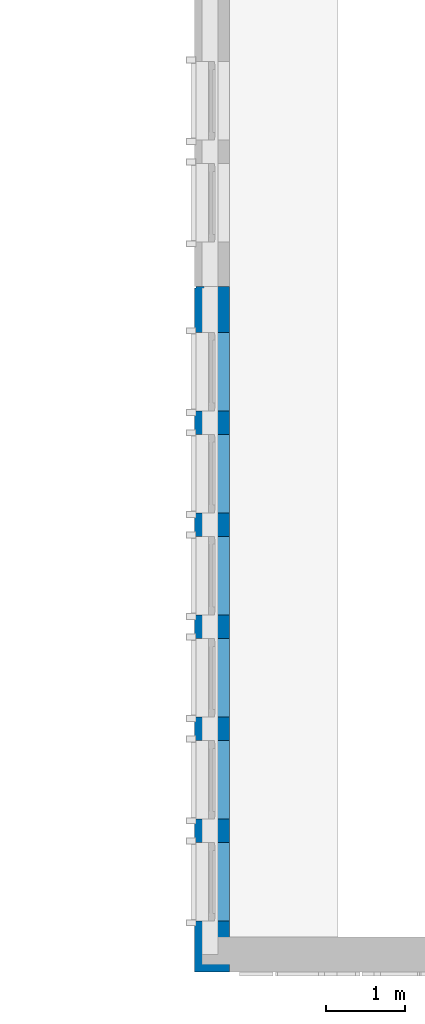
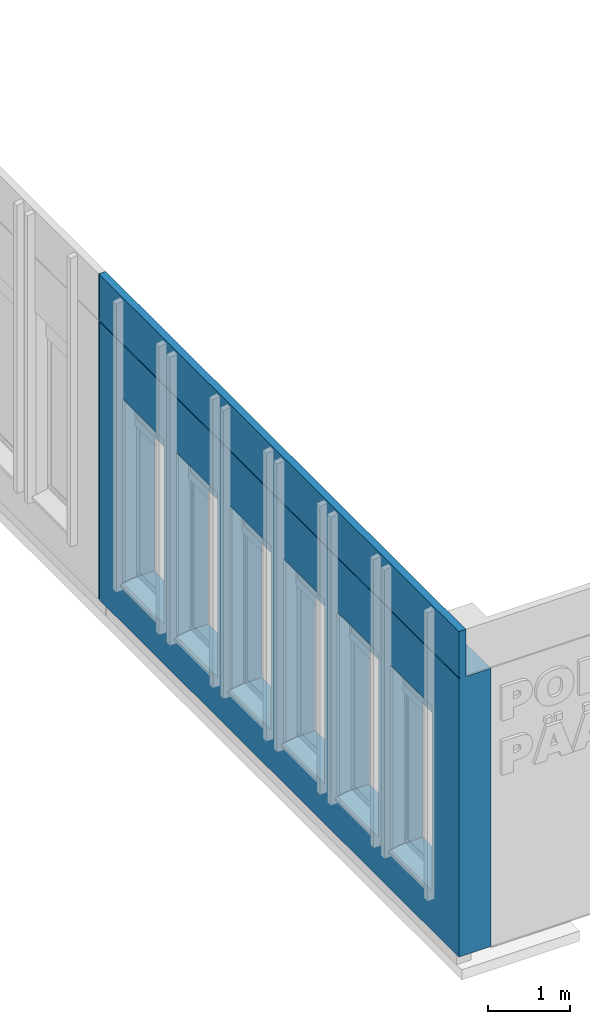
# One storey, part 2 of 33: 1 wall, 10 openings.
"""IFC2X3 building model written with IfcOpenShell, lengths in millimetres."""

from ifc_helpers import new_model, entity, si_unit, converted_unit, derived_unit, direction, frame, frame_2d, origin, place, context, subcontext, project, spatial, polyline, rectangle, extrude, clip, bounded_halfspace, faceted_brep, material, layer, layer_set, layer_usage, type_object, element, save


model = new_model("IFC2X3")

# Units and contexts
model_context = context("Model", 3, precision=0.01, world=origin(), true_north=direction((6.12303176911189e-17, 1.0)))
body_context = subcontext(model_context, "Body", "Model", "MODEL_VIEW")
ifc_project = project(units=[si_unit("LENGTHUNIT", "METRE", prefix="MILLI"), si_unit("AREAUNIT", "SQUARE_METRE"), si_unit("VOLUMEUNIT", "CUBIC_METRE"), converted_unit("PLANEANGLEUNIT", "DEGREE", entity("IfcRatioMeasure", 0.0174532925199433), si_unit("PLANEANGLEUNIT", "RADIAN"), dimensions=[0, 0, 0, 0, 0, 0, 0]), si_unit("MASSUNIT", "GRAM", prefix="KILO"), derived_unit("MASSDENSITYUNIT", [(si_unit("MASSUNIT", "GRAM", prefix="KILO"), 1), (si_unit("LENGTHUNIT", "METRE"), -3)]), si_unit("TIMEUNIT", "SECOND"), si_unit("FREQUENCYUNIT", "HERTZ"), si_unit("THERMODYNAMICTEMPERATUREUNIT", "DEGREE_CELSIUS"), derived_unit("THERMALTRANSMITTANCEUNIT", [(si_unit("MASSUNIT", "GRAM", prefix="KILO"), 1), (si_unit("THERMODYNAMICTEMPERATUREUNIT", "KELVIN"), -1), (si_unit("TIMEUNIT", "SECOND"), -3)]), derived_unit("VOLUMETRICFLOWRATEUNIT", [(si_unit("LENGTHUNIT", "METRE"), 3), (si_unit("TIMEUNIT", "SECOND"), -1)]), si_unit("ELECTRICCURRENTUNIT", "AMPERE"), si_unit("ELECTRICVOLTAGEUNIT", "VOLT"), si_unit("POWERUNIT", "WATT"), si_unit("FORCEUNIT", "NEWTON", prefix="KILO"), si_unit("ILLUMINANCEUNIT", "LUX"), si_unit("LUMINOUSFLUXUNIT", "LUMEN"), si_unit("LUMINOUSINTENSITYUNIT", "CANDELA"), derived_unit("USERDEFINED", [(si_unit("MASSUNIT", "GRAM", prefix="KILO"), -1), (si_unit("LENGTHUNIT", "METRE"), -2), (si_unit("TIMEUNIT", "SECOND"), 3), (si_unit("LUMINOUSFLUXUNIT", "LUMEN"), 1)]), derived_unit("LINEARVELOCITYUNIT", [(si_unit("LENGTHUNIT", "METRE"), 1), (si_unit("TIMEUNIT", "SECOND"), -1)]), si_unit("PRESSUREUNIT", "PASCAL"), derived_unit("USERDEFINED", [(si_unit("LENGTHUNIT", "METRE"), -2), (si_unit("MASSUNIT", "GRAM", prefix="KILO"), 1), (si_unit("TIMEUNIT", "SECOND"), -2)])], contexts=[model_context])

# Site, building, storey
site_placement = place(None, origin())
site = spatial("IfcSite", under=ifc_project, at=site_placement, Name="Default", CompositionType="ELEMENT")
building_placement = place(site_placement, origin())
building = spatial("IfcBuilding", under=site, at=building_placement, CompositionType="ELEMENT")
storey_placement = place(building_placement, frame((0.0, 0.0, 4000.0)))
storey = spatial("IfcBuildingStorey", under=building, at=storey_placement, Name="2. KORRUS", CompositionType="ELEMENT", Elevation=4000.0)

# Wall, openings
ifc_material_1 = material(Name="RECKLI 1 173 THUR by Polantis 2016-toon1")
ifc_layer_1 = layer(ifc_material_1, 100.0)
ifc_material_2 = material(Name="Soojusisolatsioon EPS")
ifc_layer_2 = layer(ifc_material_2, 200.0)
ifc_material_3 = material(Name="r/b")
ifc_layer_3 = layer(ifc_material_3, 150.0)
ifc_layer_set = layer_set([ifc_layer_1, ifc_layer_2, ifc_layer_3], Name="Basic Wall:VS-1_toon-d")
ifc_layer_usage = layer_usage(ifc_layer_set, "AXIS2", "POSITIVE", -225.0)
wall_type = type_object("IfcWallType", Name="Basic Wall:VS-1_toon-d", PredefinedType="STANDARD", material=ifc_layer_set)
wall_placement = place(storey_placement, frame((-225.0, 8285.1407951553, -115.0), z_axis=(0.0, 0.0, 1.0), x_axis=(0.0, -1.0, 0.0)))
wall = element("IfcWallStandardCase", 1, at=wall_placement, inside=storey, type_object=wall_type, material=ifc_layer_usage, Name="Basic Wall:VS-1_toon-d", ObjectType="Basic Wall:VS-1_toon-d", context=body_context, shape_type="Clipping", body=[
    clip(extrude(rectangle(XDim=8735.1407951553, YDim=450.0, at=frame_2d((4367.57039757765, -1.4210854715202e-14), x_axis=(-1.0, 0.0))), origin(), (0.0, 0.0, 1.0), 4815.0), bounded_halfspace(frame((8735.1407951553, 225.0, 4115.0), z_axis=(0.0, 0.0, 1.0), x_axis=(0.0, 1.0, 0.0)), False, frame((8735.1407951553, 225.0, 4115.0)), polyline([(0.0, 0.0), (-450.0, 0.0), (-8735.1407951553, 0.0), (-8735.1407951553, -350.0), (-100.0, -350.0), (0.0, -350.0), (0.0, 0.0)]))),
])
opening_1_placement = place(wall_placement, frame((8735.14079515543, -225.0, -16.0)))
element("IfcOpeningElement", 2, at=opening_1_placement, cuts=wall, Name="Basic Wall:VS-1_toon-d", ObjectType="Opening", context=body_context, shape_type="Brep", body=[
    faceted_brep([(-20.0, 11850.0, 16.0), (0.0, 11850.0, 16.0), (0.0, 11850.0, 0.0), (-20.0, 11850.0, 0.0), (-20.0, 4260.0, 16.0), (-20.0, 4260.0, 0.0), (0.0, 4260.0, 0.0), (0.0, 4260.0, 16.0)], [[[0, 1, 2, 3]], [[4, 5, 6, 7]], [[1, 0, 4, 7]], [[2, 1, 7, 6]], [[3, 2, 6, 5]], [[0, 3, 5, 4]]]),
    faceted_brep([(-28480.0, 20.0, 16.0), (-28480.0, 20.0, 0.0), (-28500.0, 0.0, 0.0), (-28500.0, 0.0, 16.0), (-23740.0, 20.0, 16.0), (-23740.0, 0.0, 16.0), (-23740.0, 0.0, 0.0), (-23740.0, 20.0, 0.0)], [[[0, 1, 2, 3]], [[4, 5, 6, 7]], [[1, 0, 4, 7]], [[2, 1, 7, 6]], [[3, 2, 6, 5]], [[0, 3, 5, 4]]]),
    faceted_brep([(-22380.0517807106, 10080.0, 16.0), (-22400.0517807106, 10100.0, 16.0), (-22400.0517807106, 10100.0, 0.0), (-22380.0517807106, 10080.0, 0.0), (-22380.0517807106, 15330.3475962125, 16.0), (-22380.0517807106, 15330.3475962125, 0.0), (-22400.0517807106, 15330.3475962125, 0.0), (-22400.0517807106, 15330.3475962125, 16.0)], [[[0, 1, 2, 3]], [[4, 5, 6, 7]], [[1, 0, 4, 7]], [[2, 1, 7, 6]], [[3, 2, 6, 5]], [[0, 3, 5, 4]]]),
    faceted_brep([(-28480.0, 20.0, 16.0), (-28500.0, 0.0, 16.0), (-28500.0, 0.0, 0.0), (-28480.0, 20.0, 0.0), (-28480.0, 4360.0, 16.0), (-28480.0, 4360.0, 0.0), (-28500.0, 4360.0, 0.0), (-28500.0, 4360.0, 16.0)], [[[0, 1, 2, 3]], [[4, 5, 6, 7]], [[1, 0, 4, 7]], [[2, 1, 7, 6]], [[3, 2, 6, 5]], [[0, 3, 5, 4]]]),
    faceted_brep([(-20.0, 40380.0, 16.0), (0.0, 40400.0, 16.0), (0.0, 40400.0, 0.0), (-20.0, 40380.0, 0.0), (-20.0, 35250.0, 16.0), (-20.0, 35250.0, 0.0), (0.0, 35250.0, 0.0), (0.0, 35250.0, 16.0)], [[[0, 1, 2, 3]], [[4, 5, 6, 7]], [[1, 0, 4, 7]], [[2, 1, 7, 6]], [[3, 2, 6, 5]], [[0, 3, 5, 4]]]),
    faceted_brep([(-22380.0517807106, 34420.1035702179, 16.0), (-22400.0517807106, 34420.1035702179, 16.0), (-22400.0517807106, 34420.1035702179, 0.0), (-22380.0517807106, 34420.1035702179, 0.0), (-22380.0517807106, 40380.0, 16.0), (-22380.0517807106, 40380.0, 0.0), (-22400.0517807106, 40400.0, 0.0), (-22400.0517807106, 40400.0, 16.0)], [[[0, 1, 2, 3]], [[4, 5, 6, 7]], [[1, 0, 4, 7]], [[2, 1, 7, 6]], [[3, 2, 6, 5]], [[0, 3, 5, 4]]]),
    faceted_brep([(-22380.0517807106, 29113.2161487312, 16.0), (-22400.0517807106, 29113.2161487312, 16.0), (-22400.0517807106, 29113.2161487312, 0.0), (-22380.0517807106, 29113.2161487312, 0.0), (-22380.0517807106, 34420.1035702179, 16.0), (-22380.0517807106, 34420.1035702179, 0.0), (-22400.0517807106, 34420.1035702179, 0.0), (-22400.0517807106, 34420.1035702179, 16.0)], [[[0, 1, 2, 3]], [[4, 5, 6, 7]], [[1, 0, 4, 7]], [[2, 1, 7, 6]], [[3, 2, 6, 5]], [[0, 3, 5, 4]]]),
    faceted_brep([(-28480.0, 10080.0, 16.0), (-28500.0, 10100.0, 16.0), (-28500.0, 10100.0, 0.0), (-28480.0, 10080.0, 0.0), (-22380.0517807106, 10080.0, 16.0), (-22380.0517807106, 10080.0, 0.0), (-22400.0517807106, 10100.0, 0.0), (-22400.0517807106, 10100.0, 16.0)], [[[0, 1, 2, 3]], [[4, 5, 6, 7]], [[1, 0, 4, 7]], [[2, 1, 7, 6]], [[3, 2, 6, 5]], [[0, 3, 5, 4]]]),
    faceted_brep([(-20.0, 4260.0, 16.0), (0.0, 4260.0, 16.0), (0.0, 4260.0, 0.0), (-20.0, 4260.0, 0.0), (-20.0, 0.0, 16.0), (-20.0, 0.0, 0.0), (0.0, 0.0, 0.0), (0.0, 0.0, 16.0)], [[[0, 1, 2, 3]], [[4, 5, 6, 7]], [[1, 0, 4, 7]], [[2, 1, 7, 6]], [[3, 2, 6, 5]], [[0, 3, 5, 4]]]),
    faceted_brep([(-4865.0, 40380.0, 16.0), (-4865.0, 40400.0, 16.0), (-4865.0, 40400.0, 0.0), (-4865.0, 40380.0, 0.0), (-20.0, 40380.0, 16.0), (-20.0, 40380.0, 0.0), (0.0, 40400.0, 0.0), (0.0, 40400.0, 16.0)], [[[0, 1, 2, 3]], [[4, 5, 6, 7]], [[1, 0, 4, 7]], [[2, 1, 7, 6]], [[3, 2, 6, 5]], [[0, 3, 5, 4]]]),
    faceted_brep([(-9093.33000000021, 40380.0, 16.0), (-9093.33000000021, 40400.0, 16.0), (-9093.33000000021, 40400.0, 0.0), (-9093.33000000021, 40380.0, 0.0), (-4865.0, 40380.0, 16.0), (-4865.0, 40380.0, 0.0), (-4865.0, 40400.0, 0.0), (-4865.0, 40400.0, 16.0)], [[[0, 1, 2, 3]], [[4, 5, 6, 7]], [[1, 0, 4, 7]], [[2, 1, 7, 6]], [[3, 2, 6, 5]], [[0, 3, 5, 4]]]),
    faceted_brep([(-13210.0, 40380.0, 16.0), (-13210.0, 40400.0, 16.0), (-13210.0, 40400.0, 0.0), (-13210.0, 40380.0, 0.0), (-9093.33000000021, 40380.0, 16.0), (-9093.33000000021, 40380.0, 0.0), (-9093.33000000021, 40400.0, 0.0), (-9093.33000000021, 40400.0, 16.0)], [[[0, 1, 2, 3]], [[4, 5, 6, 7]], [[1, 0, 4, 7]], [[2, 1, 7, 6]], [[3, 2, 6, 5]], [[0, 3, 5, 4]]]),
    faceted_brep([(-16240.0, 40380.0, 16.0), (-16240.0, 40400.0, 16.0), (-16240.0, 40400.0, 0.0), (-16240.0, 40380.0, 0.0), (-13210.0, 40380.0, 16.0), (-13210.0, 40380.0, 0.0), (-13210.0, 40400.0, 0.0), (-13210.0, 40400.0, 16.0)], [[[0, 1, 2, 3]], [[4, 5, 6, 7]], [[1, 0, 4, 7]], [[2, 1, 7, 6]], [[3, 2, 6, 5]], [[0, 3, 5, 4]]]),
    faceted_brep([(-22380.0517807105, 40380.0, 16.0), (-22400.0517807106, 40400.0, 16.0), (-22400.0517807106, 40400.0, 0.0), (-22380.0517807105, 40380.0, 0.0), (-16240.0, 40380.0, 16.0), (-16240.0, 40380.0, 0.0), (-16240.0, 40400.0, 0.0), (-16240.0, 40400.0, 16.0)], [[[0, 1, 2, 3]], [[4, 5, 6, 7]], [[1, 0, 4, 7]], [[2, 1, 7, 6]], [[3, 2, 6, 5]], [[0, 3, 5, 4]]]),
    faceted_brep([(-22380.0517807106, 22535.0, 16.0), (-22400.0517807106, 22535.0, 16.0), (-22400.0517807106, 22535.0, 0.0), (-22380.0517807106, 22535.0, 0.0), (-22380.0517807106, 29113.2161487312, 16.0), (-22380.0517807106, 29113.2161487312, 0.0), (-22400.0517807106, 29113.2161487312, 0.0), (-22400.0517807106, 29113.2161487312, 16.0)], [[[0, 1, 2, 3]], [[4, 5, 6, 7]], [[1, 0, 4, 7]], [[2, 1, 7, 6]], [[3, 2, 6, 5]], [[0, 3, 5, 4]]]),
    faceted_brep([(-22380.0517807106, 18703.3528910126, 16.0), (-22400.0517807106, 18703.3528910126, 16.0), (-22400.0517807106, 18703.3528910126, 0.0), (-22380.0517807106, 18703.3528910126, 0.0), (-22380.0517807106, 22535.0, 16.0), (-22380.0517807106, 22535.0, 0.0), (-22400.0517807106, 22535.0, 0.0), (-22400.0517807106, 22535.0, 16.0)], [[[0, 1, 2, 3]], [[4, 5, 6, 7]], [[1, 0, 4, 7]], [[2, 1, 7, 6]], [[3, 2, 6, 5]], [[0, 3, 5, 4]]]),
    faceted_brep([(-22380.0517807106, 15330.3475962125, 16.0), (-22400.0517807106, 15330.3475962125, 16.0), (-22400.0517807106, 15330.3475962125, 0.0), (-22380.0517807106, 15330.3475962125, 0.0), (-22380.0517807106, 18703.3528910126, 16.0), (-22380.0517807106, 18703.3528910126, 0.0), (-22400.0517807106, 18703.3528910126, 0.0), (-22400.0517807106, 18703.3528910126, 16.0)], [[[0, 1, 2, 3]], [[4, 5, 6, 7]], [[1, 0, 4, 7]], [[2, 1, 7, 6]], [[3, 2, 6, 5]], [[0, 3, 5, 4]]]),
    faceted_brep([(-28480.0, 4360.0, 16.0), (-28500.0, 4360.0, 16.0), (-28500.0, 4360.0, 0.0), (-28480.0, 4360.0, 0.0), (-28480.0, 10080.0, 16.0), (-28480.0, 10080.0, 0.0), (-28500.0, 10100.0, 0.0), (-28500.0, 10100.0, 16.0)], [[[0, 1, 2, 3]], [[4, 5, 6, 7]], [[1, 0, 4, 7]], [[2, 1, 7, 6]], [[3, 2, 6, 5]], [[0, 3, 5, 4]]]),
    faceted_brep([(-23740.0, 20.0, 16.0), (-23740.0, 20.0, 0.0), (-23740.0, 0.0, 0.0), (-23740.0, 0.0, 16.0), (-16890.0006972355, 20.0, 16.0), (-16890.0006972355, 0.0, 16.0), (-16890.0006972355, 0.0, 0.0), (-16890.0006972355, 20.0, 0.0)], [[[0, 1, 2, 3]], [[4, 5, 6, 7]], [[1, 0, 4, 7]], [[2, 1, 7, 6]], [[3, 2, 6, 5]], [[0, 3, 5, 4]]]),
    faceted_brep([(-16890.0006972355, 20.0, 16.0), (-16890.0006972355, 20.0, 0.0), (-16890.0006972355, 0.0, 0.0), (-16890.0006972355, 0.0, 16.0), (-13460.0, 20.0, 16.0), (-13460.0, 0.0, 16.0), (-13460.0, 0.0, 0.0), (-13460.0, 20.0, 0.0)], [[[0, 1, 2, 3]], [[4, 5, 6, 7]], [[1, 0, 4, 7]], [[2, 1, 7, 6]], [[3, 2, 6, 5]], [[0, 3, 5, 4]]]),
])
opening_2_placement = place(wall_placement, origin())
element("IfcOpeningElement", 3, at=opening_2_placement, cuts=wall, Name="Basic Wall:VS-1_toon-d", ObjectType="Recess", context=body_context, shape_type="SweptSolid", body=[
    extrude(rectangle(XDim=4815.0, YDim=15.9999999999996, at=frame_2d((4.54747350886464e-13, 5.40900657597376e-13), x_axis=(1.0, 0.0))), frame((12.0, -225.0, 2407.5), z_axis=(0.0, 1.0, 0.0), x_axis=(0.0, 0.0, -1.0)), (0.0, 0.0, 1.0), 20.0),
])
opening_3_placement = place(wall_placement, origin())
element("IfcOpeningElement", 4, at=opening_3_placement, cuts=wall, Name="Basic Wall:VS-1_toon-d", ObjectType="Recess", context=body_context, shape_type="SweptSolid", body=[
    extrude(rectangle(XDim=285.0, YDim=15.9999999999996, at=frame_2d((0.0, 5.40900657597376e-13), x_axis=(1.0, 0.0))), frame((12.0, -125.0, -142.500000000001), z_axis=(0.0, 1.0, 0.0), x_axis=(0.0, 0.0, -1.0)), (0.0, 0.0, 1.0), 20.0),
    extrude(rectangle(XDim=4815.0, YDim=15.9999999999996, at=frame_2d((4.54747350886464e-13, 5.40900657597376e-13), x_axis=(1.0, 0.0))), frame((12.0, -225.0, 2407.5), z_axis=(0.0, 1.0, 0.0), x_axis=(0.0, 0.0, -1.0)), (0.0, 0.0, 1.0), 20.0),
])
opening_4_placement = place(wall_placement, origin())
element("IfcOpeningElement", 5, at=opening_4_placement, cuts=wall, Name="Basic Wall:VS-1_toon-d", ObjectType="Recess", context=body_context, shape_type="SweptSolid", body=[
    extrude(rectangle(XDim=15.9999999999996, YDim=20.0, at=frame_2d((-3.37507799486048e-14, 5.40900657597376e-13), x_axis=(0.0, 1.0))), frame((8725.1407951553, 4035.0, 4127.0), z_axis=(0.0, 1.0, 0.0), x_axis=(1.0, 0.0, 0.0)), (0.0, 0.0, 1.0), 7590.0),
    extrude(rectangle(XDim=15.9999999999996, YDim=4660.0, at=frame_2d((-2.27373675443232e-12, 5.40900657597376e-13), x_axis=(0.0, 1.0))), frame((-17334.8592048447, -225.0, 4127.0), z_axis=(0.0, 1.0, 0.0), x_axis=(1.0, 0.0, 0.0)), (0.0, 0.0, 1.0), 20.0000000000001),
    extrude(rectangle(XDim=15.9999999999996, YDim=19.9999999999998, at=frame_2d((5.40900657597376e-13, -2.16626716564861e-12), x_axis=(1.0, 0.0))), frame((-13654.9109855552, 9875.0, 4127.0), z_axis=(0.0, 1.0, 0.0), x_axis=(0.0, 0.0, -1.0)), (0.0, 0.0, 1.0), 5230.3475962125),
    extrude(rectangle(XDim=15.9999999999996, YDim=19.9999999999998, at=frame_2d((5.40900657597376e-13, -2.16626716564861e-12), x_axis=(1.0, 0.0))), frame((-19754.8592048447, -225.0, 4127.0), z_axis=(0.0, 1.0, 0.0), x_axis=(0.0, 0.0, -1.0)), (0.0, 0.0, 1.0), 4360.0),
    extrude(rectangle(XDim=15.9999999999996, YDim=20.0, at=frame_2d((-3.37507799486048e-14, -5.40900657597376e-13), x_axis=(0.0, 1.0))), frame((8725.14079515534, 35025.0, 4127.0), z_axis=(0.0, 1.0, 0.0), x_axis=(1.0, 0.0, 0.0)), (0.0, 0.0, 1.0), 5050.0),
    extrude(rectangle(XDim=15.9999999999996, YDim=19.9999999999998, at=frame_2d((5.40900657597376e-13, -2.16626716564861e-12), x_axis=(1.0, 0.0))), frame((-13654.9109855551, 34195.1035702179, 4127.0), z_axis=(0.0, 1.0, 0.0), x_axis=(0.0, 0.0, -1.0)), (0.0, 0.0, 1.0), 5979.89642978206),
    extrude(rectangle(XDim=15.9999999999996, YDim=19.9999999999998, at=frame_2d((5.40900657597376e-13, -2.16626716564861e-12), x_axis=(1.0, 0.0))), frame((-13654.9109855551, 28888.2161487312, 4127.0), z_axis=(0.0, 1.0, 0.0), x_axis=(0.0, 0.0, -1.0)), (0.0, 0.0, 1.0), 5306.88742148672),
    extrude(rectangle(XDim=15.9999999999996, YDim=6099.94821928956, at=frame_2d((0.0, 0.0), x_axis=(0.0, 1.0))), frame((-16614.8850951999, 9855.0, 4127.0), z_axis=(0.0, 1.0, 0.0), x_axis=(1.0, 0.0, 0.0)), (0.0, 0.0, 1.0), 19.9999999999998),
    extrude(rectangle(XDim=15.9999999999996, YDim=20.0, at=frame_2d((-3.37507799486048e-14, 5.40900657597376e-13), x_axis=(0.0, 1.0))), frame((8725.1407951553, -125.0, 4127.0), z_axis=(0.0, 1.0, 0.0), x_axis=(1.0, 0.0, 0.0)), (0.0, 0.0, 1.0), 4160.00000000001),
    extrude(rectangle(XDim=15.9999999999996, YDim=4865.0, at=frame_2d((0.0, 5.40900657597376e-13), x_axis=(0.0, 1.0))), frame((6302.64079515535, 40155.0, 4127.0), z_axis=(0.0, 1.0, 0.0), x_axis=(1.0, 0.0, 0.0)), (0.0, 0.0, 1.0), 20.0000000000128),
    extrude(rectangle(XDim=15.9999999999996, YDim=4228.33000000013, at=frame_2d((0.0, 0.0), x_axis=(0.0, 1.0))), frame((1755.97579515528, 40155.0, 4127.0), z_axis=(0.0, 1.0, 0.0), x_axis=(1.0, 0.0, 0.0)), (0.0, 0.0, 1.0), 20.0000000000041),
    extrude(rectangle(XDim=15.9999999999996, YDim=4236.66999997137, at=frame_2d((1.13686837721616e-12, 0.0), x_axis=(0.0, 1.0))), frame((-2476.52420483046, 40155.0, 4127.0), z_axis=(0.0, 1.0, 0.0), x_axis=(1.0, 0.0, 0.0)), (0.0, 0.0, 1.0), 19.9999999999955),
    extrude(rectangle(XDim=15.9999999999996, YDim=2910.00000002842, at=frame_2d((2.1600499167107e-12, 5.40900657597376e-13), x_axis=(0.0, 1.0))), frame((-6049.85920483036, 40155.0, 4127.0), z_axis=(0.0, 1.0, 0.0), x_axis=(1.0, 0.0, 0.0)), (0.0, 0.0, 1.0), 20.0000000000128),
    extrude(rectangle(XDim=15.9999999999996, YDim=6060.05178071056, at=frame_2d((0.0, 0.0), x_axis=(0.0, 1.0))), frame((-10534.8850951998, 40155.0, 4127.0), z_axis=(0.0, 1.0, 0.0), x_axis=(1.0, 0.0, 0.0)), (0.0, 0.0, 1.0), 19.9999999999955),
    extrude(rectangle(XDim=15.9999999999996, YDim=19.9999999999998, at=frame_2d((5.40900657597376e-13, -2.16626716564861e-12), x_axis=(1.0, 0.0))), frame((-13654.9109855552, 18478.3528910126, 4127.0), z_axis=(0.0, 1.0, 0.0), x_axis=(0.0, 0.0, -1.0)), (0.0, 0.0, 1.0), 3831.64710898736),
    extrude(rectangle(XDim=15.9999999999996, YDim=19.9999999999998, at=frame_2d((5.40900657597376e-13, -2.16626716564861e-12), x_axis=(1.0, 0.0))), frame((-13654.9109855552, 15105.3475962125, 4127.0), z_axis=(0.0, 1.0, 0.0), x_axis=(0.0, 0.0, -1.0)), (0.0, 0.0, 1.0), 3373.00529480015),
    extrude(rectangle(XDim=15.9999999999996, YDim=19.9999999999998, at=frame_2d((5.40900657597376e-13, 2.16626716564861e-12), x_axis=(1.0, 0.0))), frame((-19754.8592048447, 4135.0, 4127.0), z_axis=(0.0, 1.0, 0.0), x_axis=(0.0, 0.0, -1.0)), (0.0, 0.0, 1.0), 5739.99999999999),
    extrude(rectangle(XDim=15.9999999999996, YDim=6849.99930276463, at=frame_2d((1.13686837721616e-12, 5.40900657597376e-13), x_axis=(0.0, 1.0))), frame((-11579.8595534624, -225.0, 4127.0), z_axis=(0.0, 1.0, 0.0), x_axis=(1.0, 0.0, 0.0)), (0.0, 0.0, 1.0), 20.0),
    extrude(rectangle(XDim=15.9999999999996, YDim=3430.00069726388, at=frame_2d((1.02318153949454e-12, 5.40900657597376e-13), x_axis=(0.0, 1.0))), frame((-6439.85955344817, -225.0, 4127.0), z_axis=(0.0, 1.0, 0.0), x_axis=(1.0, 0.0, 0.0)), (0.0, 0.0, 1.0), 20.0000000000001),
    extrude(rectangle(XDim=15.9999999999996, YDim=19.9999999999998, at=frame_2d((5.40900657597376e-13, -2.16626716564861e-12), x_axis=(1.0, 0.0))), frame((-13654.9109855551, 22310.0, 4127.0), z_axis=(0.0, 1.0, 0.0), x_axis=(0.0, 0.0, -1.0)), (0.0, 0.0, 1.0), 6578.21614873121),
    extrude(rectangle(XDim=15.9999999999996, YDim=20.0, at=frame_2d((-3.37507799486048e-14, 5.40900657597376e-13), x_axis=(0.0, 1.0))), frame((8725.14079515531, 11625.0, 4127.0), z_axis=(0.0, 1.0, 0.0), x_axis=(1.0, 0.0, 0.0)), (0.0, 0.0, 1.0), 4110.00000000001),
    extrude(rectangle(XDim=15.9999999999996, YDim=20.0, at=frame_2d((-3.37507799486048e-14, 5.40900657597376e-13), x_axis=(0.0, 1.0))), frame((8725.14079515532, 15735.0, 4127.0), z_axis=(0.0, 1.0, 0.0), x_axis=(1.0, 0.0, 0.0)), (0.0, 0.0, 1.0), 4600.0),
    extrude(rectangle(XDim=15.9999999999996, YDim=20.0, at=frame_2d((3.37507799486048e-14, 5.40900657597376e-13), x_axis=(0.0, 1.0))), frame((8725.14079515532, 20335.0, 4127.0), z_axis=(0.0, 1.0, 0.0), x_axis=(1.0, 0.0, 0.0)), (0.0, 0.0, 1.0), 4600.0),
    extrude(rectangle(XDim=15.9999999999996, YDim=20.0, at=frame_2d((3.37507799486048e-14, 5.40900657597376e-13), x_axis=(0.0, 1.0))), frame((8725.14079515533, 24935.0, 4127.0), z_axis=(0.0, 1.0, 0.0), x_axis=(1.0, 0.0, 0.0)), (0.0, 0.0, 1.0), 5299.99999999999),
    extrude(rectangle(XDim=15.9999999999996, YDim=20.0, at=frame_2d((-3.37507799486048e-14, 5.40900657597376e-13), x_axis=(0.0, 1.0))), frame((8725.14079515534, 30235.0, 4127.0), z_axis=(0.0, 1.0, 0.0), x_axis=(1.0, 0.0, 0.0)), (0.0, 0.0, 1.0), 4790.0),
    extrude(rectangle(XDim=15.9999999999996, YDim=4724.85920481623, at=frame_2d((6.82121026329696e-13, 5.40900657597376e-13), x_axis=(0.0, 1.0))), frame((-2362.42960240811, -225.0, 4127.0), z_axis=(0.0, 1.0, 0.0), x_axis=(1.0, 0.0, 0.0)), (0.0, 0.0, 1.0), 20.0000000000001),
    extrude(rectangle(XDim=15.9999999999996, YDim=8735.1407951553, at=frame_2d((0.0, 5.40900657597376e-13), x_axis=(0.0, 1.0))), frame((4367.57039757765, -225.0, 4127.0), z_axis=(0.0, 1.0, 0.0), x_axis=(1.0, 0.0, 0.0)), (0.0, 0.0, 1.0), 20.0),
])
opening_5_placement = place(wall_placement, frame((4185.1407951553, -225.0, 593.057009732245), z_axis=(0.0, 0.0, 1.0), x_axis=(0.0, 1.0, 0.0)))
element("IfcOpeningElement", 6, at=opening_5_placement, cuts=wall, Name="Basic Wall:VS-1_toon-d", ObjectType="Opening", context=body_context, shape_type="Brep", body=[
    faceted_brep([(450.0, 0.0, 2346.94299026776), (450.0, 0.0, 21.9429902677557), (450.0, 1000.0, 21.9429902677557), (450.0, 1000.0, 2346.94299026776), (0.0, 1000.0, 2721.94299026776), (0.0, 1000.0, 0.0), (0.0, 0.0, 0.0), (0.0, 0.0, 2721.94299026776), (200.0, 0.0, 2346.94299026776), (200.0, 0.0, 2721.94299026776), (124.444881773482, 0.0, 21.9429902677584), (124.444881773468, 1000.0, 21.9429902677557), (200.0, 1000.0, 2721.94299026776), (200.0, 1000.0, 2346.94299026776)], [[[0, 1, 2, 3]], [[4, 5, 6, 7]], [[0, 8, 9, 7, 6, 10, 1]], [[1, 10, 11, 2]], [[2, 11, 5, 4, 12, 13, 3]], [[3, 13, 8, 0]], [[9, 8, 13, 12]], [[12, 4, 7, 9]], [[6, 5, 11, 10]]]),
])
opening_6_placement = place(wall_placement, frame((5485.1407951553, -225.0, 593.057009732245), z_axis=(0.0, 0.0, 1.0), x_axis=(0.0, 1.0, 0.0)))
element("IfcOpeningElement", 7, at=opening_6_placement, cuts=wall, Name="Basic Wall:VS-1_toon-d", ObjectType="Opening", context=body_context, shape_type="Brep", body=[
    faceted_brep([(450.0, 0.0, 2346.94299026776), (450.0, 0.0, 21.9429902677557), (450.0, 1000.0, 21.9429902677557), (450.0, 1000.0, 2346.94299026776), (0.0, 1000.0, 2721.94299026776), (0.0, 1000.0, 0.0), (0.0, 0.0, 0.0), (0.0, 0.0, 2721.94299026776), (200.0, 0.0, 2346.94299026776), (200.0, 0.0, 2721.94299026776), (124.444881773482, 0.0, 21.9429902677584), (124.444881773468, 1000.0, 21.9429902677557), (200.0, 1000.0, 2721.94299026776), (200.0, 1000.0, 2346.94299026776)], [[[0, 1, 2, 3]], [[4, 5, 6, 7]], [[0, 8, 9, 7, 6, 10, 1]], [[1, 10, 11, 2]], [[2, 11, 5, 4, 12, 13, 3]], [[3, 13, 8, 0]], [[9, 8, 13, 12]], [[12, 4, 7, 9]], [[6, 5, 11, 10]]]),
])
opening_7_placement = place(wall_placement, frame((1585.1407951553, -225.0, 593.057009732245), z_axis=(0.0, 0.0, 1.0), x_axis=(0.0, 1.0, 0.0)))
element("IfcOpeningElement", 8, at=opening_7_placement, cuts=wall, Name="Basic Wall:VS-1_toon-d", ObjectType="Opening", context=body_context, shape_type="Brep", body=[
    faceted_brep([(450.0, 0.0, 2346.94299026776), (450.0, 0.0, 21.9429902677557), (450.0, 1000.0, 21.9429902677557), (450.0, 1000.0, 2346.94299026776), (0.0, 1000.0, 2721.94299026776), (0.0, 1000.0, 0.0), (0.0, 0.0, 0.0), (0.0, 0.0, 2721.94299026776), (200.0, 0.0, 2346.94299026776), (200.0, 0.0, 2721.94299026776), (124.444881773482, 0.0, 21.9429902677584), (124.444881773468, 1000.0, 21.9429902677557), (200.0, 1000.0, 2721.94299026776), (200.0, 1000.0, 2346.94299026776)], [[[0, 1, 2, 3]], [[4, 5, 6, 7]], [[0, 8, 9, 7, 6, 10, 1]], [[1, 10, 11, 2]], [[2, 11, 5, 4, 12, 13, 3]], [[3, 13, 8, 0]], [[9, 8, 13, 12]], [[12, 4, 7, 9]], [[6, 5, 11, 10]]]),
])
opening_8_placement = place(wall_placement, frame((2885.1407951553, -225.0, 593.057009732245), z_axis=(0.0, 0.0, 1.0), x_axis=(0.0, 1.0, 0.0)))
element("IfcOpeningElement", 9, at=opening_8_placement, cuts=wall, Name="Basic Wall:VS-1_toon-d", ObjectType="Opening", context=body_context, shape_type="Brep", body=[
    faceted_brep([(450.0, 0.0, 2346.94299026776), (450.0, 0.0, 21.9429902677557), (450.0, 1000.0, 21.9429902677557), (450.0, 1000.0, 2346.94299026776), (0.0, 1000.0, 2721.94299026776), (0.0, 1000.0, 0.0), (0.0, 0.0, 0.0), (0.0, 0.0, 2721.94299026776), (200.0, 0.0, 2346.94299026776), (200.0, 0.0, 2721.94299026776), (124.444881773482, 0.0, 21.9429902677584), (124.444881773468, 1000.0, 21.9429902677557), (200.0, 1000.0, 2721.94299026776), (200.0, 1000.0, 2346.94299026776)], [[[0, 1, 2, 3]], [[4, 5, 6, 7]], [[0, 8, 9, 7, 6, 10, 1]], [[1, 10, 11, 2]], [[2, 11, 5, 4, 12, 13, 3]], [[3, 13, 8, 0]], [[9, 8, 13, 12]], [[12, 4, 7, 9]], [[6, 5, 11, 10]]]),
])
opening_9_placement = place(wall_placement, frame((6785.1407951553, -225.0, 593.057009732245), z_axis=(0.0, 0.0, 1.0), x_axis=(0.0, 1.0, 0.0)))
element("IfcOpeningElement", 10, at=opening_9_placement, cuts=wall, Name="Basic Wall:VS-1_toon-d", ObjectType="Opening", context=body_context, shape_type="Brep", body=[
    faceted_brep([(450.0, 0.0, 2346.94299026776), (450.0, 0.0, 21.9429902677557), (450.0, 1000.0, 21.9429902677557), (450.0, 1000.0, 2346.94299026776), (0.0, 1000.0, 2721.94299026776), (0.0, 1000.0, 0.0), (0.0, 0.0, 0.0), (0.0, 0.0, 2721.94299026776), (200.0, 0.0, 2346.94299026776), (200.0, 0.0, 2721.94299026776), (124.444881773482, 0.0, 21.9429902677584), (124.444881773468, 1000.0, 21.9429902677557), (200.0, 1000.0, 2721.94299026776), (200.0, 1000.0, 2346.94299026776)], [[[0, 1, 2, 3]], [[4, 5, 6, 7]], [[0, 8, 9, 7, 6, 10, 1]], [[1, 10, 11, 2]], [[2, 11, 5, 4, 12, 13, 3]], [[3, 13, 8, 0]], [[9, 8, 13, 12]], [[12, 4, 7, 9]], [[6, 5, 11, 10]]]),
])
opening_10_placement = place(wall_placement, frame((8085.1407951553, -225.0, 593.057009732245), z_axis=(0.0, 0.0, 1.0), x_axis=(0.0, 1.0, 0.0)))
element("IfcOpeningElement", 11, at=opening_10_placement, cuts=wall, Name="Basic Wall:VS-1_toon-d", ObjectType="Opening", context=body_context, shape_type="Brep", body=[
    faceted_brep([(450.0, 0.0, 2346.94299026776), (450.0, 0.0, 21.9429902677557), (450.0, 1000.0, 21.9429902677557), (450.0, 1000.0, 2346.94299026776), (0.0, 1000.0, 2721.94299026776), (0.0, 1000.0, 0.0), (0.0, 0.0, 0.0), (0.0, 0.0, 2721.94299026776), (200.0, 0.0, 2346.94299026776), (200.0, 0.0, 2721.94299026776), (124.444881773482, 0.0, 21.9429902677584), (124.444881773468, 1000.0, 21.9429902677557), (200.0, 1000.0, 2721.94299026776), (200.0, 1000.0, 2346.94299026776)], [[[0, 1, 2, 3]], [[4, 5, 6, 7]], [[0, 8, 9, 7, 6, 10, 1]], [[1, 10, 11, 2]], [[2, 11, 5, 4, 12, 13, 3]], [[3, 13, 8, 0]], [[9, 8, 13, 12]], [[12, 4, 7, 9]], [[6, 5, 11, 10]]]),
])

save(model, "model.ifc")
